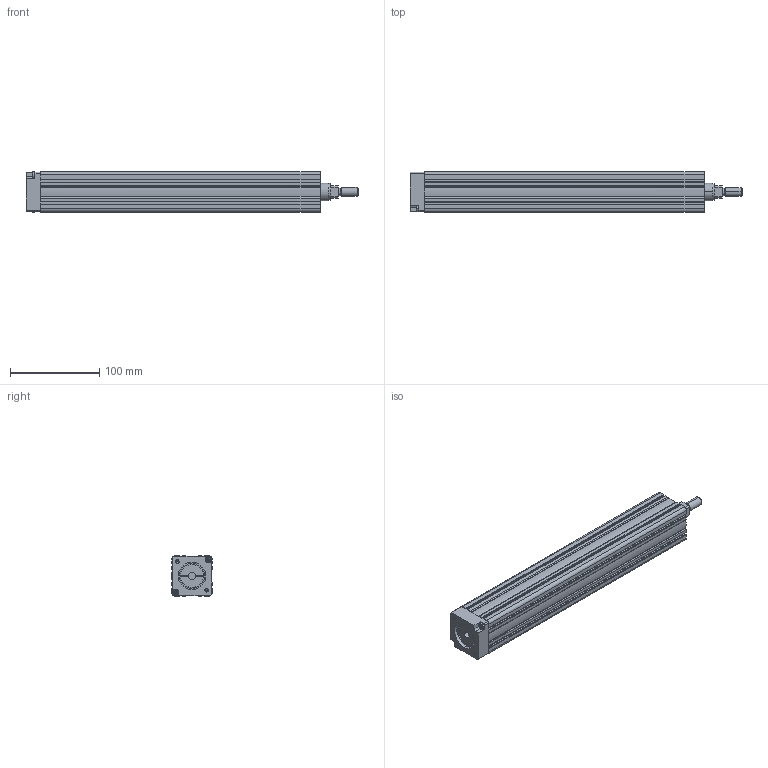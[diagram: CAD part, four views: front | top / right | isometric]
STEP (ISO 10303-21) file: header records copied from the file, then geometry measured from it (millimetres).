
FILE_DESCRIPTION (( 'STEP AP203' ), '1' );
FILE_NAME ('RD-45T-200.STEP', '2010-06-14T17:38:41', ( 'render' ), ( '' ), 'SwSTEP 2.0', 'SolidWorks 2009', '' );
FILE_SCHEMA (( 'CONFIG_CONTROL_DESIGN' ));
Length unit declared in the file: millimetre
Products named in the file (1): RD-45T-200
Bounding box: 371.5 x 45 x 45.1 mm (x, y, z)
Volume: 591548.9 mm3; surface area: 129892.9 mm2
Topology: 2 solids, 2 shells, 345 faces, 888 edges, 562 vertices
Faces by surface type: plane 200, cylinder 101, cone 40, bspline 4
Entity records: 10565 total; most frequent: CARTESIAN_POINT 1973, DIRECTION 1800, ORIENTED_EDGE 1760, EDGE_CURVE 880, LINE 618, VECTOR 618, AXIS2_PLACEMENT_3D 591, VERTEX_POINT 562
